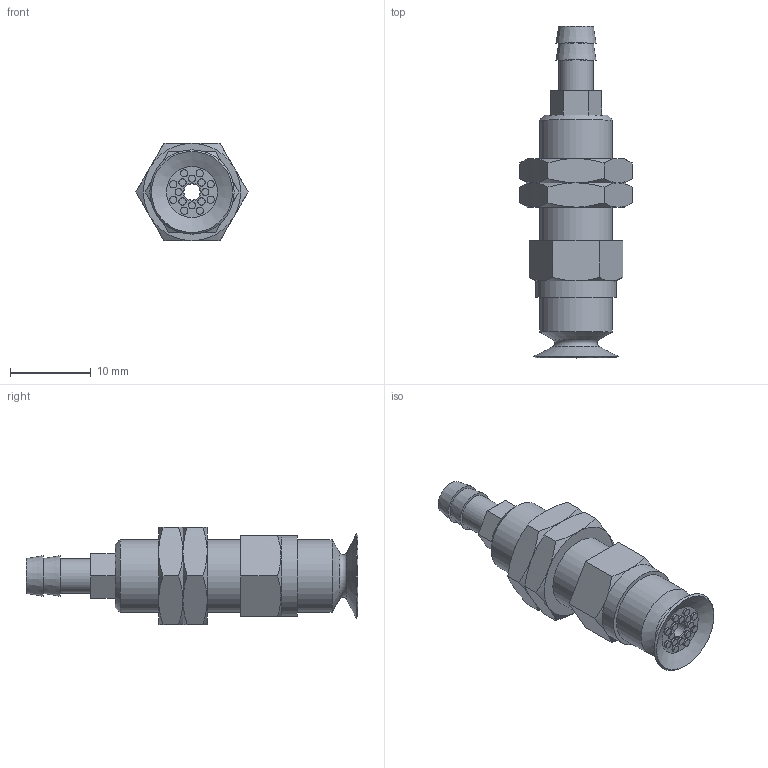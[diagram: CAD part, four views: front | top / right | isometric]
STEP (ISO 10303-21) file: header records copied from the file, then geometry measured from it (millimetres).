
FILE_DESCRIPTION(('STEP AP203'),'1');
FILE_NAME('.stp','2024-06-28T06:29:03',(' '),(' '),'Spatial InterOp 3D',' ',' ');
FILE_SCHEMA(('CONFIG_CONTROL_DESIGN'));
Length unit declared in the file: millimetre
Products named in the file (4): BBPATK-10A-※; Nut-10A-; BPATK-10A; BPAG-10A-※_3D
Assembly tree (4 placements, depth 2):
  BBPATK-10A-※
    Nut-10A-  x2
    BPATK-10A
    BPAG-10A-※_3D
Bounding box: 13.86 x 41 x 12 mm (x, y, z)
Volume: 2224 mm3; surface area: 2653 mm2
Topology: 4 solids, 4 shells, 141 faces, 275 edges, 168 vertices
Faces by surface type: plane 58, cone 43, cylinder 30, torus 10
Full cylindrical faces by diameter (mm): 0.9 x16, 2 x1, 3 x2, 4 x2, 4.134 x1, 4.3 x1, 6 x2, 7.917 x2, 9 x2, 10 x1
Entity records: 3208 total; most frequent: CARTESIAN_POINT 827, DIRECTION 476, ORIENTED_EDGE 338, AXIS2_PLACEMENT_3D 220, EDGE_LOOP 200, EDGE_CURVE 169, FACE_OUTER_BOUND 157, VERTEX_POINT 133
